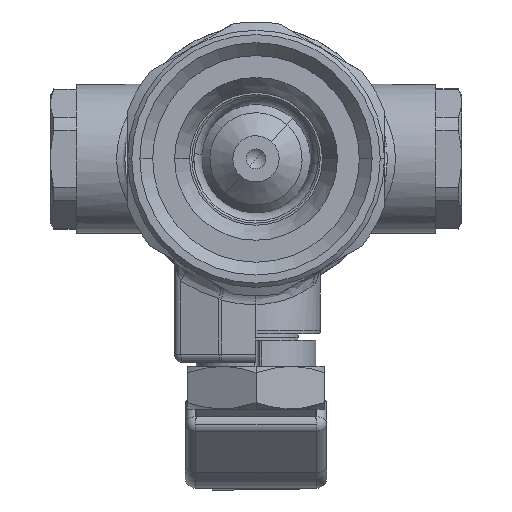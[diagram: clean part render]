
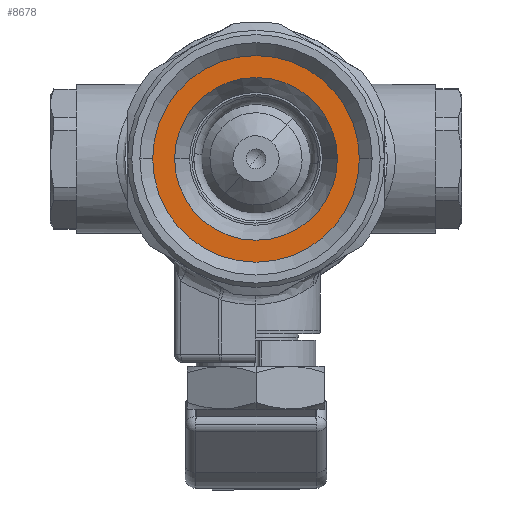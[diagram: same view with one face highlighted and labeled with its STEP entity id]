
A CAD part, left-side view. The second image highlights one B-rep face of the part: STEP entity #8678.
In plain terms, the highlighted planar face has unit normal (-1, 0, 0).
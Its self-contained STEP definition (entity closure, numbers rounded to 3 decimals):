
#2143 = CARTESIAN_POINT ( 'NONE',  ( -9.2, 0., 0. ) ) ;
#2417 = CARTESIAN_POINT ( 'NONE',  ( -9.2, 0., 0. ) ) ;
#3547 = AXIS2_PLACEMENT_3D ( 'NONE', #37425, #13863, #40345 ) ;
#3807 = CARTESIAN_POINT ( 'NONE',  ( -9.2, 0., 12.06 ) ) ;
#5023 = AXIS2_PLACEMENT_3D ( 'NONE', #2143, #5492, #15494 ) ;
#5305 = DIRECTION ( 'NONE',  ( 0., 0., 1. ) ) ;
#5492 = DIRECTION ( 'NONE',  ( -1., 0., 0. ) ) ;
#5809 = VERTEX_POINT ( 'NONE', #42229 ) ;
#6843 = AXIS2_PLACEMENT_3D ( 'NONE', #2417, #8821, #39326 ) ;
#6969 = CARTESIAN_POINT ( 'NONE',  ( -9.2, 0., -9.5 ) ) ;
#7951 = CIRCLE ( 'NONE', #6843, 12.06 ) ;
#8678 = ADVANCED_FACE ( 'NONE', ( #24930, #13461 ), #30472, .F. ) ;
#8821 = DIRECTION ( 'NONE',  ( -1., 0., 0. ) ) ;
#10591 = VERTEX_POINT ( 'NONE', #6969 ) ;
#10921 = AXIS2_PLACEMENT_3D ( 'NONE', #21269, #30607, #20720 ) ;
#13186 = CARTESIAN_POINT ( 'NONE',  ( -9.2, 0., 9.5 ) ) ;
#13461 = FACE_OUTER_BOUND ( 'NONE', #41981, .T. ) ;
#13863 = DIRECTION ( 'NONE',  ( 1., 0., 0. ) ) ;
#14931 = EDGE_LOOP ( 'NONE', ( #32004, #36889 ) ) ;
#15494 = DIRECTION ( 'NONE',  ( 0., 0., 1. ) ) ;
#20720 = DIRECTION ( 'NONE',  ( 0., 0., 1. ) ) ;
#21269 = CARTESIAN_POINT ( 'NONE',  ( -9.2, 0., 0. ) ) ;
#21574 = CIRCLE ( 'NONE', #5023, 12.06 ) ;
#22566 = EDGE_CURVE ( 'NONE', #24597, #10591, #25992, .T. ) ;
#24597 = VERTEX_POINT ( 'NONE', #13186 ) ;
#24930 = FACE_BOUND ( 'NONE', #14931, .T. ) ;
#25992 = CIRCLE ( 'NONE', #10921, 9.5 ) ;
#29638 = EDGE_CURVE ( 'NONE', #10591, #24597, #35929, .T. ) ;
#30368 = ORIENTED_EDGE ( 'NONE', *, *, #41627, .T. ) ;
#30472 = PLANE ( 'NONE',  #3547 ) ;
#30607 = DIRECTION ( 'NONE',  ( -1., 0., 0. ) ) ;
#31595 = VERTEX_POINT ( 'NONE', #3807 ) ;
#32004 = ORIENTED_EDGE ( 'NONE', *, *, #22566, .F. ) ;
#32019 = DIRECTION ( 'NONE',  ( -1., 0., 0. ) ) ;
#35929 = CIRCLE ( 'NONE', #40811, 9.5 ) ;
#36889 = ORIENTED_EDGE ( 'NONE', *, *, #29638, .F. ) ;
#37425 = CARTESIAN_POINT ( 'NONE',  ( -9.2, 12.06, 0. ) ) ;
#38109 = EDGE_CURVE ( 'NONE', #5809, #31595, #7951, .T. ) ;
#38538 = CARTESIAN_POINT ( 'NONE',  ( -9.2, 0., 0. ) ) ;
#39326 = DIRECTION ( 'NONE',  ( 0., 0., 1. ) ) ;
#40345 = DIRECTION ( 'NONE',  ( 0., 0., -1. ) ) ;
#40811 = AXIS2_PLACEMENT_3D ( 'NONE', #38538, #32019, #5305 ) ;
#41553 = ORIENTED_EDGE ( 'NONE', *, *, #38109, .T. ) ;
#41627 = EDGE_CURVE ( 'NONE', #31595, #5809, #21574, .T. ) ;
#41981 = EDGE_LOOP ( 'NONE', ( #30368, #41553 ) ) ;
#42229 = CARTESIAN_POINT ( 'NONE',  ( -9.2, 0., -12.06 ) ) ;
